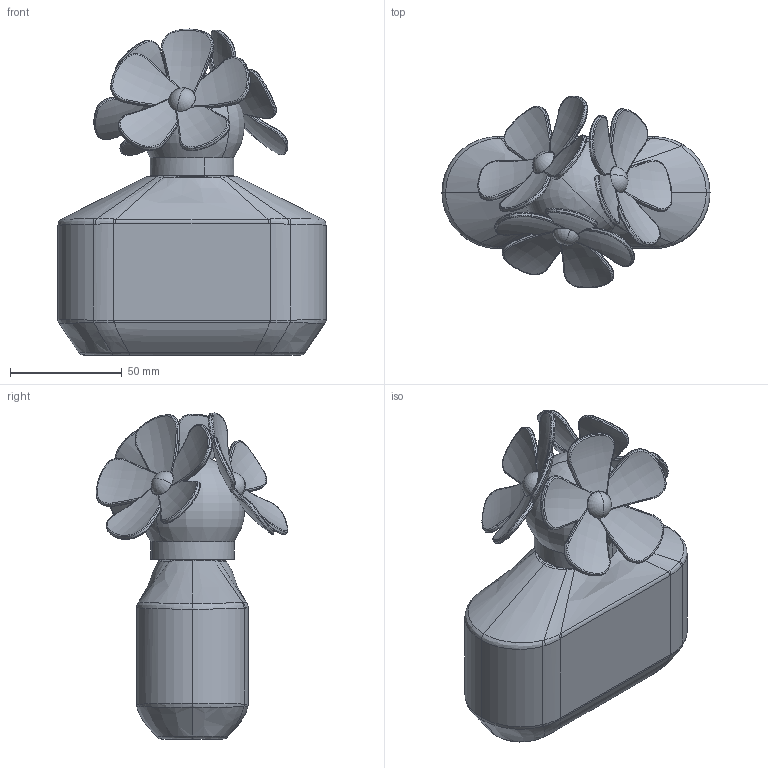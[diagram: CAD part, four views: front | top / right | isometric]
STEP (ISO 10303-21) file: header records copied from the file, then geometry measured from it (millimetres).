
FILE_DESCRIPTION(('CATIA V5 STEP Exchange'),'2;1');
FILE_NAME('C:\Documents and Settings\ABHIJEET\Desktop\Product1.stp','2011-10-29T12:12:34+00:00',('none'),('none'),'CATIA Version 5 Release 19 GA (IN-10)','CATIA V5 STEP AP203','none');
FILE_SCHEMA(('CONFIG_CONTROL_DESIGN'));
Length unit declared in the file: millimetre
Products named in the file (2): Product1; Product2
Assembly tree (6 placements, depth 3):
  Product1
    #56
    Product2
      #13860
      #14488  x3
Bounding box: 120 x 85.71 x 145.9 mm (x, y, z)
Volume: 119200 mm3; surface area: 83369 mm2
Topology: 5 solids, 12 shells, 546 faces, 1368 edges, 827 vertices
Faces by surface type: bspline 382, cylinder 58, plane 44, revolution 44, torus 10, cone 8
Entity records: 22432 total; most frequent: CARTESIAN_POINT 17190, ORIENTED_EDGE 1484, EDGE_CURVE 730, B_SPLINE_CURVE_WITH_KNOTS 601, VERTEX_POINT 436, EDGE_LOOP 312, ADVANCED_FACE 306, FACE_OUTER_BOUND 306
